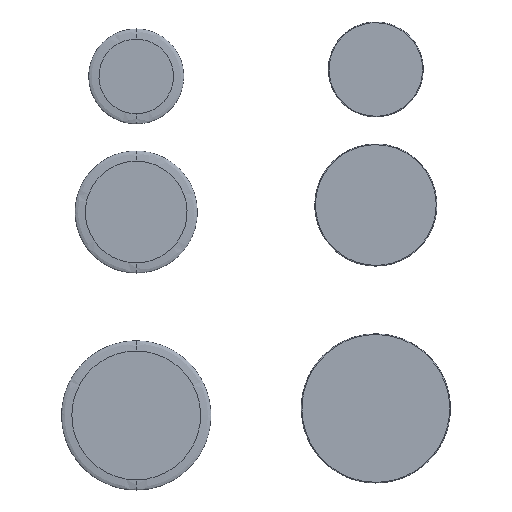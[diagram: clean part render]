
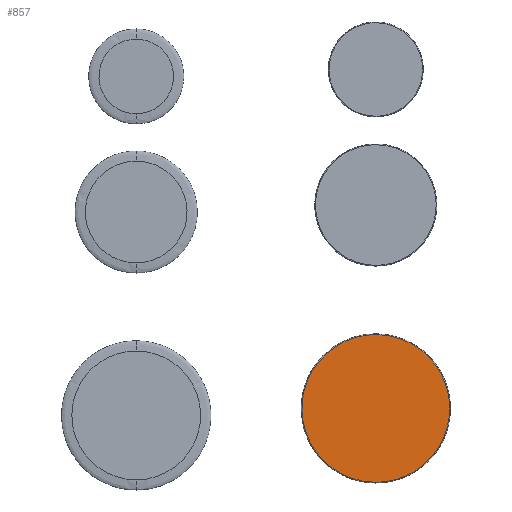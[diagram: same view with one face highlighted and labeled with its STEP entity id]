
A CAD part, top view. The second image highlights one B-rep face of the part: STEP entity #857.
In plain terms, the highlighted planar face has unit normal (0, 0, 1) as drawn and (0, 1, 0) by its records, which use the part's own axes.
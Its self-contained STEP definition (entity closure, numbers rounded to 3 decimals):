
#857=ADVANCED_FACE('',(#1447),#7894,.T.);
#1447=FACE_OUTER_BOUND('',#2157,.T.);
#2157=EDGE_LOOP('',(#4234,#4235));
#4234=ORIENTED_EDGE('',*,*,#5624,.F.);
#4235=ORIENTED_EDGE('',*,*,#5626,.F.);
#5624=EDGE_CURVE('',#7640,#7641,#6860,.T.);
#5626=EDGE_CURVE('',#7641,#7640,#6862,.T.);
#6860=(
BOUNDED_CURVE()
B_SPLINE_CURVE(2,(#19342,#19343,#19344,#19345,#19346),.UNSPECIFIED.,.F.,
 .F.)
B_SPLINE_CURVE_WITH_KNOTS((3,2,3),(0.,856.084,1712.168),
 .UNSPECIFIED.)
CURVE()
GEOMETRIC_REPRESENTATION_ITEM()
RATIONAL_B_SPLINE_CURVE((1.,0.707,1.,0.707,1.))
REPRESENTATION_ITEM('')
);
#6862=(
BOUNDED_CURVE()
B_SPLINE_CURVE(2,(#19350,#19351,#19352,#19353,#19354),.UNSPECIFIED.,.F.,
 .F.)
B_SPLINE_CURVE_WITH_KNOTS((3,2,3),(0.,856.084,1712.168),
 .UNSPECIFIED.)
CURVE()
GEOMETRIC_REPRESENTATION_ITEM()
RATIONAL_B_SPLINE_CURVE((1.,0.707,1.,0.707,1.))
REPRESENTATION_ITEM('')
);
#7640=VERTEX_POINT('',#19228);
#7641=VERTEX_POINT('',#19229);
#7894=PLANE('',#10575);
#10575=AXIS2_PLACEMENT_3D('',#19004,#11194,$);
#11194=DIRECTION('',(0.,1.,0.));
#19004=CARTESIAN_POINT('',(-654.,20.,-654.));
#19228=CARTESIAN_POINT('',(0.,20.,-545.));
#19229=CARTESIAN_POINT('',(0.,20.,545.));
#19342=CARTESIAN_POINT('',(0.,20.,-545.));
#19343=CARTESIAN_POINT('',(545.,20.,-545.));
#19344=CARTESIAN_POINT('',(545.,20.,0.));
#19345=CARTESIAN_POINT('',(545.,20.,545.));
#19346=CARTESIAN_POINT('',(0.,20.,545.));
#19350=CARTESIAN_POINT('',(0.,20.,545.));
#19351=CARTESIAN_POINT('',(-545.,20.,545.));
#19352=CARTESIAN_POINT('',(-545.,20.,0.));
#19353=CARTESIAN_POINT('',(-545.,20.,-545.));
#19354=CARTESIAN_POINT('',(0.,20.,-545.));
